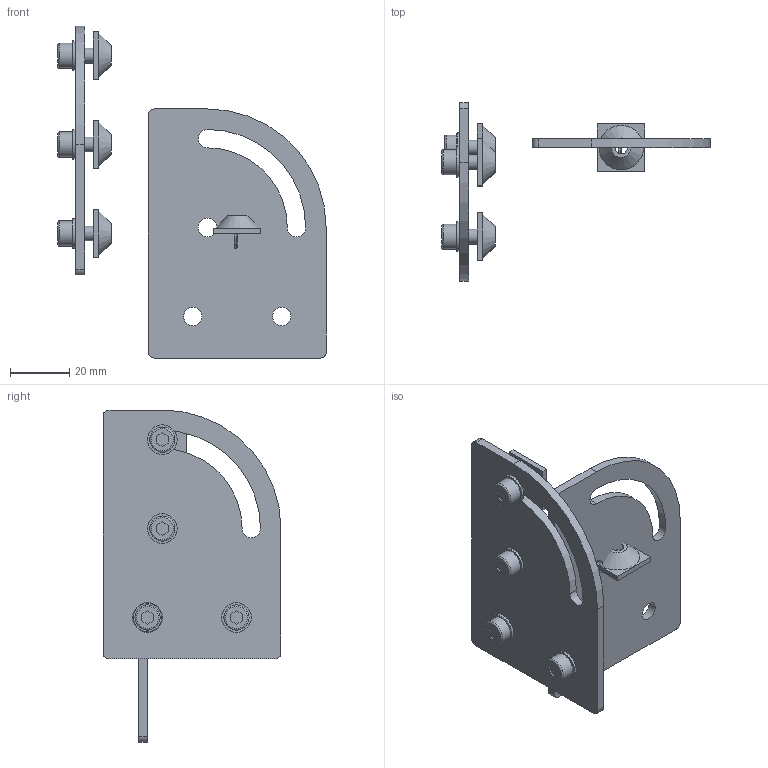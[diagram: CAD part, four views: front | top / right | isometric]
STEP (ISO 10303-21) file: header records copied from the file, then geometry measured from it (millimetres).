
FILE_DESCRIPTION( ( 'Unknown' ), '1' );
FILE_NAME( 'C:/Users/Fabrizio/Desktop/DISEGNI ACCESSORI FP SOLIDEDGE/CA.03.10.005.stp', 'Unknown', ( 'Unknown' ), ( 'Unknown' ), 'PSStep 13.0', 'Unknown', ' ' );
FILE_SCHEMA( ( 'AUTOMOTIVE_DESIGN { 1 0 10303 214 1 1 1 1 }' ) );
Length unit declared in the file: millimetre
Products named in the file (5): Assem1; V-tcei M  5 x 12; 03-10-005; ca.02.05.008; rondellaDIN 125 - A 5.3
Bounding box: 90.5 x 60 x 112 mm (x, y, z)
Volume: 32417.8 mm3; surface area: 26386.6 mm2
Topology: 17 solids, 17 shells, 179 faces, 376 edges, 246 vertices
Faces by surface type: plane 107, cylinder 47, cone 15, torus 10
Full cylindrical faces by diameter (mm): 4.2 x5, 5 x5, 5.3 x5, 6.2 x6, 8.5 x5, 10 x5
Entity records: 1582 total; most frequent: DIRECTION 246, CARTESIAN_POINT 214, ORIENTED_EDGE 176, AXIS2_PLACEMENT_3D 98, EDGE_CURVE 88, EDGE_LOOP 74, VERTEX_POINT 66, FACE_OUTER_BOUND 56
